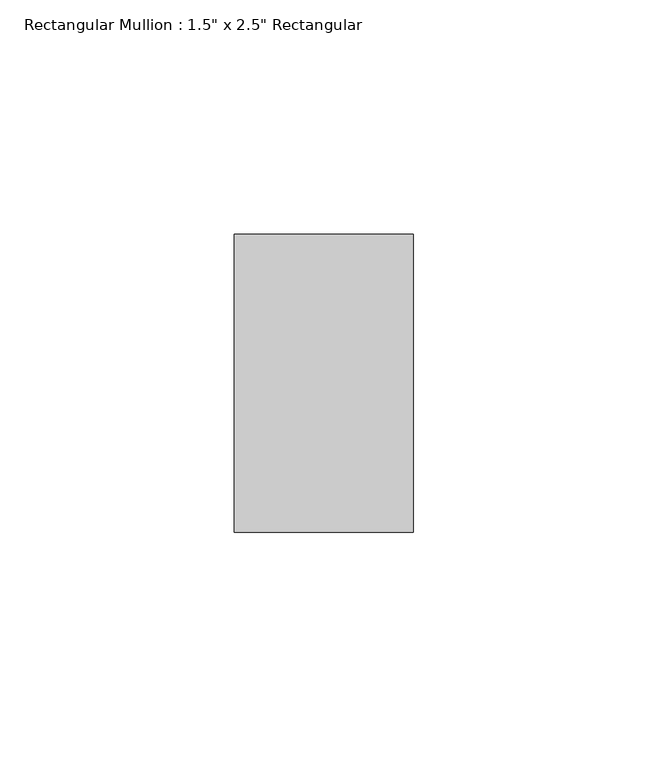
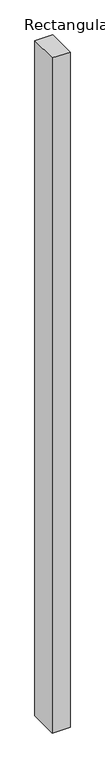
"""IFC4 building model written with IfcOpenShell, lengths in millimetres: member geometry."""

import ifcopenshell
import ifcopenshell.guid

model = None  # the IFC model being written
_history = None  # IfcOwnerHistory: only IFC2X3 demands one
_inside = {}  # id of a spatial element -> (the spatial element, [elements in it])
_under = {}  # id of a project, library or spatial element -> (it, [spatial elements below it])
_declared = {}  # id of a project -> (the project, [libraries it declares])
_typed = {}  # id of a type object -> (the type object, [elements of that type])
_made_of = {}  # id of a material, layer set ... -> (it, [elements and type objects made of it])


def new_model(schema):
    """Start an empty IFC model of exactly this schema.

    Asked for "IFC4X3", IfcOpenShell would pick the latest addendum, in which some entities
    have other attributes; the version numbers below select the first issue.
    IFC2X3 requires an IfcOwnerHistory on every rooted entity: one is made here for all.
    """
    global model, _history
    if schema == "IFC4X3":
        model = ifcopenshell.file(schema_version=(4, 3, 0, 0))
    else:
        model = ifcopenshell.file(schema=schema)
    _inside.clear()
    _under.clear()
    _declared.clear()
    _typed.clear()
    _made_of.clear()
    _history = None
    if model.schema == "IFC2X3":
        org = make("IfcOrganization", Name="unknown")
        user = make(
            "IfcPersonAndOrganization",
            ThePerson=make("IfcPerson", FamilyName="unknown"),
            TheOrganization=org,
        )
        app = make(
            "IfcApplication",
            ApplicationDeveloper=org,
            Version="unknown",
            ApplicationFullName="unknown",
            ApplicationIdentifier="unknown",
        )
        _history = make(
            "IfcOwnerHistory",
            OwningUser=user,
            OwningApplication=app,
            ChangeAction="ADDED",
            CreationDate=0,
        )
    return model


def make(cls, **values):
    """One entity of the class cls with the attributes given. An attribute that is None is left unset."""
    return model.create_entity(
        cls, **{name: value for name, value in values.items() if value is not None}
    )


def rooted(cls, **values):
    """An entity with a GlobalId (a new one), such as an element, a storey or a relation."""
    return make(cls, GlobalId=ifcopenshell.guid.new(), OwnerHistory=_history, **values)


def si_unit(unit_type, name, prefix=None):
    """IfcSIUnit, for example si_unit("LENGTHUNIT", "METRE", prefix="MILLI")."""
    return make("IfcSIUnit", UnitType=unit_type, Prefix=prefix, Name=name)


def assignment(units):
    """IfcUnitAssignment: the units of a project."""
    return None if units is None else make("IfcUnitAssignment", Units=units)


def point(xyz):
    """IfcCartesianPoint."""
    return None if xyz is None else make("IfcCartesianPoint", Coordinates=xyz)


def direction(xyz):
    """IfcDirection."""
    return None if xyz is None else make("IfcDirection", DirectionRatios=xyz)


def frame(location, z_axis=None, x_axis=None):
    """IfcAxis2Placement3D, a coordinate frame: its origin and axes. An axis left out is left unset."""
    return make(
        "IfcAxis2Placement3D",
        Location=point(location),
        Axis=direction(z_axis),
        RefDirection=direction(x_axis),
    )


def origin():
    """The frame at (0, 0, 0) with its axes left unset."""
    return frame((0.0, 0.0, 0.0))


def place(relative_to, where):
    """IfcLocalPlacement: puts the frame where relative to a parent placement (None: the world)."""
    return make(
        "IfcLocalPlacement", PlacementRelTo=relative_to, RelativePlacement=where
    )


def context(
    kind, dimensions, precision=None, world=None, true_north=None, identifier=None
):
    """IfcGeometricRepresentationContext, for example the 3D "Model" context."""
    return make(
        "IfcGeometricRepresentationContext",
        ContextIdentifier=identifier,
        ContextType=kind,
        CoordinateSpaceDimension=dimensions,
        Precision=precision,
        WorldCoordinateSystem=world,
        TrueNorth=true_north,
    )


def project(units=None, contexts=None):
    """IfcProject with its units and contexts."""
    return rooted(
        "IfcProject",
        Name="project",
        RepresentationContexts=contexts,
        UnitsInContext=assignment(units),
    )


def spatial(cls, under=None, at=None, **own):
    """A site, building, storey or space (cls), placed at a placement, below another one or the project."""
    s = rooted(cls, ObjectPlacement=at, **own)
    if under is not None:
        _under.setdefault(under.id(), (under, []))[1].append(s)
    return s


def polyline(points):
    """IfcPolyline through the points."""
    return make("IfcPolyline", Points=[point(p) for p in points])


def outline(outer, holes=None, kind="AREA"):
    """IfcArbitraryClosedProfileDef: a profile drawn as a closed curve; with holes, ...WithVoids."""
    if holes is None:
        return make("IfcArbitraryClosedProfileDef", ProfileType=kind, OuterCurve=outer)
    return make(
        "IfcArbitraryProfileDefWithVoids",
        ProfileType=kind,
        OuterCurve=outer,
        InnerCurves=holes,
    )


def extrude(swept, where, along, depth):
    """IfcExtrudedAreaSolid: the profile swept, set in the frame where, extruded along a direction by depth."""
    return make(
        "IfcExtrudedAreaSolid",
        SweptArea=swept,
        Position=where,
        ExtrudedDirection=direction(along),
        Depth=depth,
    )


def shape(context_of_items, identifier, shape_type, items):
    """IfcShapeRepresentation: the items that make up one representation, for example the "Body"."""
    return make(
        "IfcShapeRepresentation",
        ContextOfItems=context_of_items,
        RepresentationIdentifier=identifier,
        RepresentationType=shape_type,
        Items=items,
    )


def source(mapping_origin, context_of_items, identifier, shape_type, items):
    """IfcRepresentationMap: a shape defined once, which mapped items show again and again."""
    return make(
        "IfcRepresentationMap",
        MappingOrigin=mapping_origin,
        MappedRepresentation=shape(context_of_items, identifier, shape_type, items),
    )


def transform(
    local_origin,
    x_axis=None,
    y_axis=None,
    z_axis=None,
    scale=None,
    scale2=None,
    scale3=None,
    uniform=True,
):
    """IfcCartesianTransformationOperator3D, or its non-uniform kind. x_axis, y_axis, z_axis: its Axis1, 2, 3."""
    if uniform:
        return make(
            "IfcCartesianTransformationOperator3D",
            Axis1=direction(x_axis),
            Axis2=direction(y_axis),
            LocalOrigin=point(local_origin),
            Scale=scale,
            Axis3=direction(z_axis),
        )
    return make(
        "IfcCartesianTransformationOperator3DnonUniform",
        Axis1=direction(x_axis),
        Axis2=direction(y_axis),
        LocalOrigin=point(local_origin),
        Scale=scale,
        Axis3=direction(z_axis),
        Scale2=scale2,
        Scale3=scale3,
    )


def mapped(mapping_source, mapping_target):
    """IfcMappedItem: shows the shape of a source again, moved by a transform."""
    return make(
        "IfcMappedItem", MappingSource=mapping_source, MappingTarget=mapping_target
    )


def made_of(thing, what):
    """Note that an element or type object is made of a material, layer set ...; save() writes the relation."""
    if what is not None:
        _made_of.setdefault(what.id(), (what, []))[1].append(thing)
    return thing


def element(
    cls,
    number,
    at=None,
    inside=None,
    cuts=None,
    type_object=None,
    material=None,
    context=None,
    identifier="Body",
    shape_type=None,
    held_by="IfcProductDefinitionShape",
    body=None,
    shapes=None,
    **own,
):
    """One element of the class cls, such as IfcWall. Its Tag is "e" and its number.

    at: its placement. inside: the storey or other place that contains it. cuts: it is an
    opening in that element (IfcRelVoidsElement). A single representation is given by context,
    identifier, shape_type and body (its items); several are given by shapes. held_by: the class
    of the entity that holds the representations. save() writes the other relations.
    """
    e = rooted(cls, Tag="e%d" % number, ObjectPlacement=at, **own)
    if body is not None:
        shapes = [shape(context, identifier, shape_type, body)]
    if shapes is not None:
        e.Representation = make(held_by, Representations=shapes)
    if inside is not None:
        _inside.setdefault(inside.id(), (inside, []))[1].append(e)
    if cuts is not None:
        rooted(
            "IfcRelVoidsElement", RelatingBuildingElement=cuts, RelatedOpeningElement=e
        )
    if type_object is not None:
        _typed.setdefault(type_object.id(), (type_object, []))[1].append(e)
    return made_of(e, material)


def aggregate(whole, parts):
    """IfcRelAggregates: a whole, such as a stair, and the parts it consists of."""
    return rooted("IfcRelAggregates", RelatingObject=whole, RelatedObjects=parts)


def save(model, path):
    """Write the relations noted so far, then the file.

    IfcRelAggregates (storeys below a building ...), IfcRelContainedInSpatialStructure (elements
    in a storey), IfcRelDefinesByType, IfcRelAssociatesMaterial and IfcRelDeclares: one each for
    every whole, place, type object, material and project.
    """
    for whole, parts in _under.values():
        aggregate(whole, parts)
    for where, things in _inside.values():
        rooted(
            "IfcRelContainedInSpatialStructure",
            RelatedElements=things,
            RelatingStructure=where,
        )
    for kind, things in _typed.values():
        rooted("IfcRelDefinesByType", RelatedObjects=things, RelatingType=kind)
    for what, things in _made_of.values():
        rooted("IfcRelAssociatesMaterial", RelatedObjects=things, RelatingMaterial=what)
    for by, libraries in _declared.values():
        rooted("IfcRelDeclares", RelatingContext=by, RelatedDefinitions=libraries)
    model.write(path)


def member_c3f37f0b(model_context):
    return source(origin(), model_context, "Body", "SweptSolid", [
        extrude(outline(polyline([(0.0, 31.75), (0.0, -31.75), (-38.1, -31.75), (-38.1, 31.75), (0.0, 31.75)])), frame((0.0, 0.0, -1519.7666667), z_axis=(0.0, 0.0, 1.0), x_axis=(1.0, 0.0, 0.0)), (0.0, 0.0, 1.0), 1519.7666667),
    ])


if __name__ == "__main__":
    model = new_model("IFC4")
    model_context = context("Model", 3, world=origin())
    ifc_project = project(units=[si_unit("LENGTHUNIT", "METRE", prefix="MILLI")], contexts=[model_context])
    site = spatial("IfcSite", under=ifc_project)
    building = spatial("IfcBuilding", under=site)
    placement = place(None, origin())
    member_shape = member_c3f37f0b(model_context)
    element("IfcMember", 1, ObjectType="Rectangular Mullion : 1.5\" x 2.5\" Rectangular", at=placement, inside=building, context=model_context, shape_type="MappedRepresentation", body=[
        mapped(member_shape, transform((0.0, 0.0, 0.0), x_axis=(1.0, 0.0, 0.0), y_axis=(0.0, 1.0, 0.0), z_axis=(0.0, 0.0, 1.0))),
    ])
    save(model, "model.ifc")
